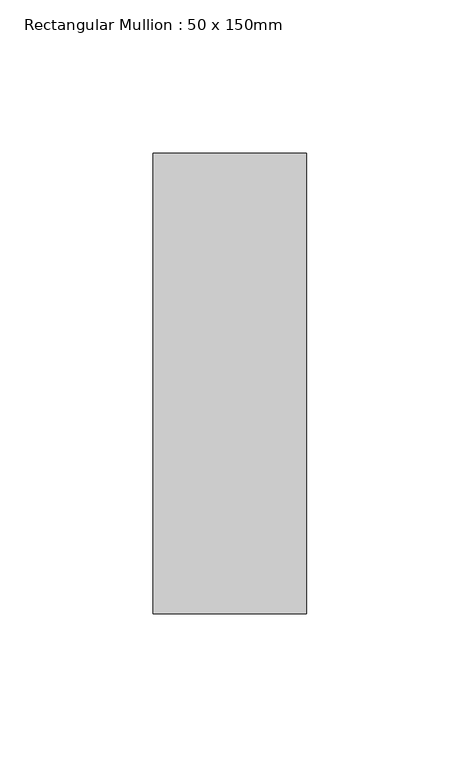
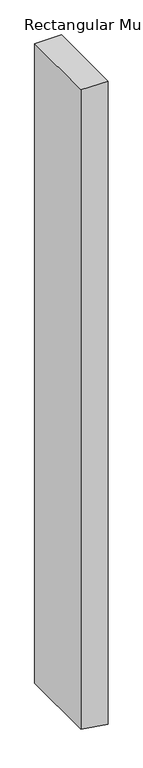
"""IFC4 building model written with IfcOpenShell, lengths in millimetres: member geometry, Rectangular Mullion : 50 x 150mm."""

from ifc_helpers import new_model, si_unit, frame, origin, place, context, project, spatial, polyline, outline, extrude, source, transform, mapped, element, save


def rectangular_mullion_50_x_150mm_418b3fc4(model_context):
    return source(origin(), model_context, "Body", "SweptSolid", [
        extrude(outline(polyline([(0.0, 0.0), (0.0, -50.0), (-1260.4382343, -50.0), (-1267.7190961, 0.0), (0.0, 0.0)])), frame((0.0, -75.0, 0.0), z_axis=(0.0, 1.0, 0.0), x_axis=(0.0, 0.0, 1.0)), (0.0, 0.0, 1.0), 150.0),
    ])


if __name__ == "__main__":
    model = new_model("IFC4")
    model_context = context("Model", 3, world=origin())
    ifc_project = project(units=[si_unit("LENGTHUNIT", "METRE", prefix="MILLI")], contexts=[model_context])
    site = spatial("IfcSite", under=ifc_project)
    building = spatial("IfcBuilding", under=site)
    placement = place(None, origin())
    rectangular_mullion_50_x_150mm_shape = rectangular_mullion_50_x_150mm_418b3fc4(model_context)
    element("IfcMember", 1, ObjectType="Rectangular Mullion : 50 x 150mm", at=placement, inside=building, context=model_context, shape_type="MappedRepresentation", body=[
        mapped(rectangular_mullion_50_x_150mm_shape, transform((0.0, 0.0, 0.0), x_axis=(1.0, 0.0, 0.0), y_axis=(0.0, 1.0, 0.0), z_axis=(0.0, 0.0, 1.0))),
    ])
    save(model, "model.ifc")
